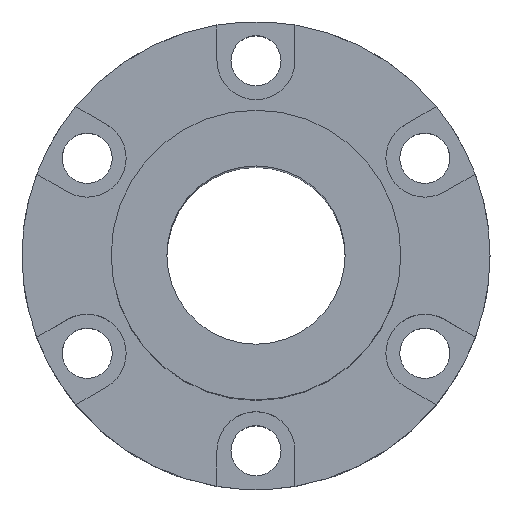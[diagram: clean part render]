
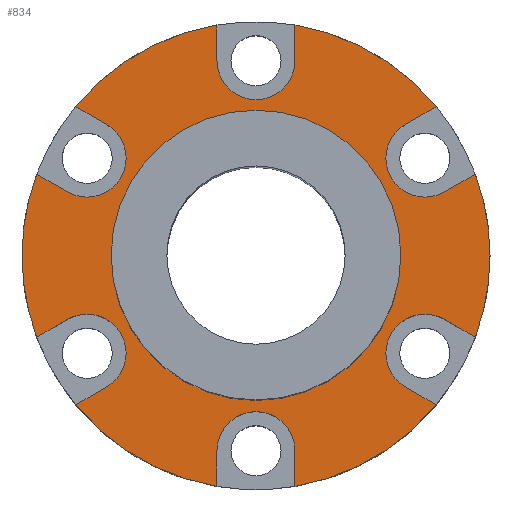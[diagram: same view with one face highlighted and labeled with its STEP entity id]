
A CAD part, top view. The second image highlights one B-rep face of the part: STEP entity #834.
In plain terms, the highlighted planar face has unit normal (0, 0, 1).
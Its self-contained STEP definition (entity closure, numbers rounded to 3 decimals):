
#1=CARTESIAN_POINT('',(0.,0.,17.5));
#2=DIRECTION('',(0.,0.,-1.));
#3=DIRECTION('',(1.,0.,0.));
#4=AXIS2_PLACEMENT_3D('',#1,#2,#3);
#6=CARTESIAN_POINT('',(0.,0.,17.5));
#7=DIRECTION('',(0.,0.,-1.));
#8=DIRECTION('',(-1.,0.,0.));
#9=AXIS2_PLACEMENT_3D('',#6,#7,#8);
#11=CARTESIAN_POINT('',(30.311,17.5,17.5));
#12=DIRECTION('',(0.,0.,1.));
#13=DIRECTION('',(-0.5,0.866,0.));
#14=AXIS2_PLACEMENT_3D('',#11,#12,#13);
#16=DIRECTION('',(-0.866,-0.5,0.));
#17=VECTOR('',#16,6.413);
#18=CARTESIAN_POINT('',(39.364,14.644,17.5));
#19=LINE('',#18,#17);
#20=CARTESIAN_POINT('',(0.,0.,17.5));
#21=DIRECTION('',(0.,0.,1.));
#22=DIRECTION('',(1.,0.,0.));
#23=AXIS2_PLACEMENT_3D('',#20,#21,#22);
#25=CARTESIAN_POINT('',(0.,0.,17.5));
#26=DIRECTION('',(0.,0.,1.));
#27=DIRECTION('',(0.937,-0.349,0.));
#28=AXIS2_PLACEMENT_3D('',#25,#26,#27);
#30=DIRECTION('',(-0.866,0.5,0.));
#31=VECTOR('',#30,6.413);
#32=CARTESIAN_POINT('',(39.364,-14.644,17.5));
#33=LINE('',#32,#31);
#34=CARTESIAN_POINT('',(30.311,-17.5,17.5));
#35=DIRECTION('',(0.,0.,1.));
#36=DIRECTION('',(0.5,0.866,0.));
#37=AXIS2_PLACEMENT_3D('',#34,#35,#36);
#39=DIRECTION('',(0.866,-0.5,0.));
#40=VECTOR('',#39,6.413);
#41=CARTESIAN_POINT('',(26.811,-23.562,17.5));
#42=LINE('',#41,#40);
#43=CARTESIAN_POINT('',(0.,0.,17.5));
#44=DIRECTION('',(0.,0.,1.));
#45=DIRECTION('',(0.167,-0.986,0.));
#46=AXIS2_PLACEMENT_3D('',#43,#44,#45);
#48=DIRECTION('',(0.,1.,0.));
#49=VECTOR('',#48,6.413);
#50=CARTESIAN_POINT('',(7.,-41.413,17.5));
#51=LINE('',#50,#49);
#52=CARTESIAN_POINT('',(0.,-35.,17.5));
#53=DIRECTION('',(0.,0.,1.));
#54=DIRECTION('',(1.,0.,0.));
#55=AXIS2_PLACEMENT_3D('',#52,#53,#54);
#57=DIRECTION('',(0.,1.,0.));
#58=VECTOR('',#57,6.413);
#59=CARTESIAN_POINT('',(-7.,-41.413,17.5));
#60=LINE('',#59,#58);
#61=CARTESIAN_POINT('',(0.,0.,17.5));
#62=DIRECTION('',(0.,0.,1.));
#63=DIRECTION('',(-0.771,-0.637,0.));
#64=AXIS2_PLACEMENT_3D('',#61,#62,#63);
#66=DIRECTION('',(0.866,0.5,0.));
#67=VECTOR('',#66,6.413);
#68=CARTESIAN_POINT('',(-32.364,-26.768,17.5));
#69=LINE('',#68,#67);
#70=CARTESIAN_POINT('',(-30.311,-17.5,17.5));
#71=DIRECTION('',(0.,0.,1.));
#72=DIRECTION('',(0.5,-0.866,0.));
#73=AXIS2_PLACEMENT_3D('',#70,#71,#72);
#75=DIRECTION('',(0.866,0.5,0.));
#76=VECTOR('',#75,6.413);
#77=CARTESIAN_POINT('',(-39.364,-14.644,17.5));
#78=LINE('',#77,#76);
#79=CARTESIAN_POINT('',(0.,0.,17.5));
#80=DIRECTION('',(0.,0.,1.));
#81=DIRECTION('',(-1.,0.,0.));
#82=AXIS2_PLACEMENT_3D('',#79,#80,#81);
#84=CARTESIAN_POINT('',(0.,0.,17.5));
#85=DIRECTION('',(0.,0.,1.));
#86=DIRECTION('',(-0.937,0.349,0.));
#87=AXIS2_PLACEMENT_3D('',#84,#85,#86);
#89=DIRECTION('',(0.866,-0.5,0.));
#90=VECTOR('',#89,6.413);
#91=CARTESIAN_POINT('',(-39.364,14.644,17.5));
#92=LINE('',#91,#90);
#93=CARTESIAN_POINT('',(-30.311,17.5,17.5));
#94=DIRECTION('',(0.,0.,1.));
#95=DIRECTION('',(-0.5,-0.866,0.));
#96=AXIS2_PLACEMENT_3D('',#93,#94,#95);
#98=DIRECTION('',(-0.866,0.5,0.));
#99=VECTOR('',#98,6.413);
#100=CARTESIAN_POINT('',(-26.811,23.562,17.5));
#101=LINE('',#100,#99);
#102=CARTESIAN_POINT('',(0.,0.,17.5));
#103=DIRECTION('',(0.,0.,1.));
#104=DIRECTION('',(-0.167,0.986,0.));
#105=AXIS2_PLACEMENT_3D('',#102,#103,#104);
#107=DIRECTION('',(0.,-1.,0.));
#108=VECTOR('',#107,6.413);
#109=CARTESIAN_POINT('',(-7.,41.413,17.5));
#110=LINE('',#109,#108);
#111=CARTESIAN_POINT('',(0.,35.,17.5));
#112=DIRECTION('',(0.,0.,1.));
#113=DIRECTION('',(-1.,0.,0.));
#114=AXIS2_PLACEMENT_3D('',#111,#112,#113);
#116=DIRECTION('',(0.,-1.,0.));
#117=VECTOR('',#116,6.413);
#118=CARTESIAN_POINT('',(7.,41.413,17.5));
#119=LINE('',#118,#117);
#120=CARTESIAN_POINT('',(0.,0.,17.5));
#121=DIRECTION('',(0.,0.,1.));
#122=DIRECTION('',(0.771,0.637,0.));
#123=AXIS2_PLACEMENT_3D('',#120,#121,#122);
#125=DIRECTION('',(-0.866,-0.5,0.));
#126=VECTOR('',#125,6.413);
#127=CARTESIAN_POINT('',(32.364,26.768,17.5));
#128=LINE('',#127,#126);
#593=CARTESIAN_POINT('',(-42.,0.,17.5));
#595=VERTEX_POINT('',#593);
#597=CARTESIAN_POINT('',(42.,0.,17.5));
#599=VERTEX_POINT('',#597);
#629=CARTESIAN_POINT('',(33.811,-11.438,17.5));
#630=CARTESIAN_POINT('',(26.811,-23.562,17.5));
#631=VERTEX_POINT('',#629);
#632=VERTEX_POINT('',#630);
#633=CARTESIAN_POINT('',(32.364,-26.768,17.5));
#634=VERTEX_POINT('',#633);
#635=CARTESIAN_POINT('',(39.364,-14.644,17.5));
#636=VERTEX_POINT('',#635);
#649=CARTESIAN_POINT('',(7.,-35.,17.5));
#650=CARTESIAN_POINT('',(-7.,-35.,17.5));
#651=VERTEX_POINT('',#649);
#652=VERTEX_POINT('',#650);
#653=CARTESIAN_POINT('',(-7.,-41.413,17.5));
#654=VERTEX_POINT('',#653);
#655=CARTESIAN_POINT('',(7.,-41.413,17.5));
#656=VERTEX_POINT('',#655);
#669=CARTESIAN_POINT('',(-26.811,-23.562,17.5));
#670=CARTESIAN_POINT('',(-33.811,-11.438,17.5));
#671=VERTEX_POINT('',#669);
#672=VERTEX_POINT('',#670);
#673=CARTESIAN_POINT('',(-39.364,-14.644,17.5));
#674=VERTEX_POINT('',#673);
#675=CARTESIAN_POINT('',(-32.364,-26.768,17.5));
#676=VERTEX_POINT('',#675);
#689=CARTESIAN_POINT('',(-33.811,11.438,17.5));
#690=CARTESIAN_POINT('',(-26.811,23.562,17.5));
#691=VERTEX_POINT('',#689);
#692=VERTEX_POINT('',#690);
#693=CARTESIAN_POINT('',(-32.364,26.768,17.5));
#694=VERTEX_POINT('',#693);
#695=CARTESIAN_POINT('',(-39.364,14.644,17.5));
#696=VERTEX_POINT('',#695);
#709=CARTESIAN_POINT('',(-7.,35.,17.5));
#710=CARTESIAN_POINT('',(7.,35.,17.5));
#711=VERTEX_POINT('',#709);
#712=VERTEX_POINT('',#710);
#713=CARTESIAN_POINT('',(7.,41.413,17.5));
#714=VERTEX_POINT('',#713);
#715=CARTESIAN_POINT('',(-7.,41.413,17.5));
#716=VERTEX_POINT('',#715);
#729=CARTESIAN_POINT('',(26.811,23.562,17.5));
#730=CARTESIAN_POINT('',(33.811,11.438,17.5));
#731=VERTEX_POINT('',#729);
#732=VERTEX_POINT('',#730);
#733=CARTESIAN_POINT('',(39.364,14.644,17.5));
#734=VERTEX_POINT('',#733);
#735=CARTESIAN_POINT('',(32.364,26.768,17.5));
#736=VERTEX_POINT('',#735);
#749=CARTESIAN_POINT('',(-26.,0.,17.5));
#750=CARTESIAN_POINT('',(26.,0.,17.5));
#751=VERTEX_POINT('',#749);
#752=VERTEX_POINT('',#750);
#769=CARTESIAN_POINT('',(0.,0.,17.5));
#770=DIRECTION('',(0.,0.,1.));
#771=DIRECTION('',(1.,0.,0.));
#772=AXIS2_PLACEMENT_3D('',#769,#770,#771);
#773=PLANE('',#772);
#775=ORIENTED_EDGE('',*,*,#774,.T.);
#777=ORIENTED_EDGE('',*,*,#776,.F.);
#779=ORIENTED_EDGE('',*,*,#778,.F.);
#781=ORIENTED_EDGE('',*,*,#780,.F.);
#783=ORIENTED_EDGE('',*,*,#782,.T.);
#785=ORIENTED_EDGE('',*,*,#784,.T.);
#787=ORIENTED_EDGE('',*,*,#786,.T.);
#789=ORIENTED_EDGE('',*,*,#788,.F.);
#791=ORIENTED_EDGE('',*,*,#790,.T.);
#793=ORIENTED_EDGE('',*,*,#792,.T.);
#795=ORIENTED_EDGE('',*,*,#794,.F.);
#797=ORIENTED_EDGE('',*,*,#796,.F.);
#799=ORIENTED_EDGE('',*,*,#798,.T.);
#801=ORIENTED_EDGE('',*,*,#800,.T.);
#803=ORIENTED_EDGE('',*,*,#802,.F.);
#805=ORIENTED_EDGE('',*,*,#804,.F.);
#807=ORIENTED_EDGE('',*,*,#806,.F.);
#809=ORIENTED_EDGE('',*,*,#808,.T.);
#811=ORIENTED_EDGE('',*,*,#810,.T.);
#813=ORIENTED_EDGE('',*,*,#812,.T.);
#815=ORIENTED_EDGE('',*,*,#814,.F.);
#817=ORIENTED_EDGE('',*,*,#816,.T.);
#819=ORIENTED_EDGE('',*,*,#818,.T.);
#821=ORIENTED_EDGE('',*,*,#820,.F.);
#823=ORIENTED_EDGE('',*,*,#822,.F.);
#825=ORIENTED_EDGE('',*,*,#824,.T.);
#826=EDGE_LOOP('',(#775,#777,#779,#781,#783,#785,#787,#789,#791,#793,#795,#797,
#799,#801,#803,#805,#807,#809,#811,#813,#815,#817,#819,#821,#823,#825));
#827=FACE_OUTER_BOUND('',#826,.F.);
#829=ORIENTED_EDGE('',*,*,#828,.F.);
#831=ORIENTED_EDGE('',*,*,#830,.F.);
#832=EDGE_LOOP('',(#829,#831));
#833=FACE_BOUND('',#832,.F.);
#834=ADVANCED_FACE('',(#827,#833),#773,.T.);
#5=CIRCLE('',#4,26.);
#10=CIRCLE('',#9,26.);
#15=CIRCLE('',#14,7.);
#24=CIRCLE('',#23,42.);
#29=CIRCLE('',#28,42.);
#38=CIRCLE('',#37,7.);
#47=CIRCLE('',#46,42.);
#56=CIRCLE('',#55,7.);
#65=CIRCLE('',#64,42.);
#74=CIRCLE('',#73,7.);
#83=CIRCLE('',#82,42.);
#88=CIRCLE('',#87,42.);
#97=CIRCLE('',#96,7.);
#106=CIRCLE('',#105,42.);
#115=CIRCLE('',#114,7.);
#124=CIRCLE('',#123,42.);
#774=EDGE_CURVE('',#731,#732,#15,.T.);
#776=EDGE_CURVE('',#734,#732,#19,.T.);
#778=EDGE_CURVE('',#599,#734,#24,.T.);
#780=EDGE_CURVE('',#636,#599,#29,.T.);
#782=EDGE_CURVE('',#636,#631,#33,.T.);
#784=EDGE_CURVE('',#631,#632,#38,.T.);
#786=EDGE_CURVE('',#632,#634,#42,.T.);
#788=EDGE_CURVE('',#656,#634,#47,.T.);
#790=EDGE_CURVE('',#656,#651,#51,.T.);
#792=EDGE_CURVE('',#651,#652,#56,.T.);
#794=EDGE_CURVE('',#654,#652,#60,.T.);
#796=EDGE_CURVE('',#676,#654,#65,.T.);
#798=EDGE_CURVE('',#676,#671,#69,.T.);
#800=EDGE_CURVE('',#671,#672,#74,.T.);
#802=EDGE_CURVE('',#674,#672,#78,.T.);
#804=EDGE_CURVE('',#595,#674,#83,.T.);
#806=EDGE_CURVE('',#696,#595,#88,.T.);
#808=EDGE_CURVE('',#696,#691,#92,.T.);
#810=EDGE_CURVE('',#691,#692,#97,.T.);
#812=EDGE_CURVE('',#692,#694,#101,.T.);
#814=EDGE_CURVE('',#716,#694,#106,.T.);
#816=EDGE_CURVE('',#716,#711,#110,.T.);
#818=EDGE_CURVE('',#711,#712,#115,.T.);
#820=EDGE_CURVE('',#714,#712,#119,.T.);
#822=EDGE_CURVE('',#736,#714,#124,.T.);
#824=EDGE_CURVE('',#736,#731,#128,.T.);
#828=EDGE_CURVE('',#752,#751,#5,.T.);
#830=EDGE_CURVE('',#751,#752,#10,.T.);
